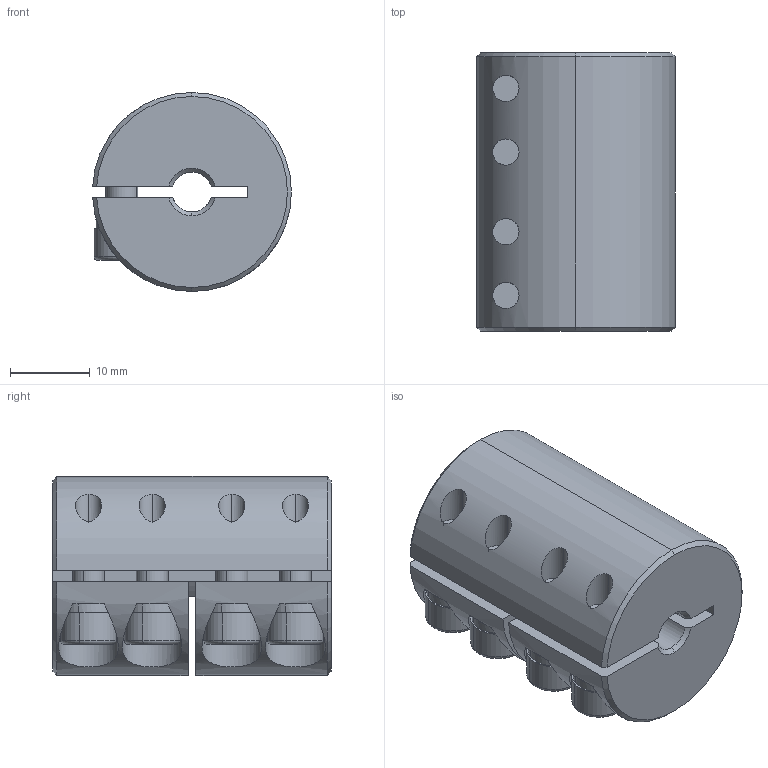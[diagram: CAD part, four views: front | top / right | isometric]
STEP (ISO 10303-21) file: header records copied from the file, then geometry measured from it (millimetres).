
FILE_DESCRIPTION (( 'STEP AP203' ), '1' );
FILE_NAME ('LL-B-D25L35-5-10.STEP', '2021-11-05T06:49:43', ( '' ), ( '' ), 'SwSTEP 2.0', 'SolidWorks 2018', '' );
FILE_SCHEMA (( 'CONFIG_CONTROL_DESIGN' ));
Length unit declared in the file: millimetre
Products named in the file (1): LL-B-D25L35-5-10
Bounding box: 24.98 x 35 x 25 mm (x, y, z)
Volume: 14302.7 mm3; surface area: 6900 mm2
Topology: 1 solids, 1 shells, 192 faces, 493 edges, 307 vertices
Faces by surface type: plane 92, cylinder 72, cone 20, torus 8
Entity records: 6313 total; most frequent: CARTESIAN_POINT 1497, DIRECTION 1042, ORIENTED_EDGE 970, EDGE_CURVE 485, AXIS2_PLACEMENT_3D 404, VERTEX_POINT 307, LINE 234, VECTOR 234
